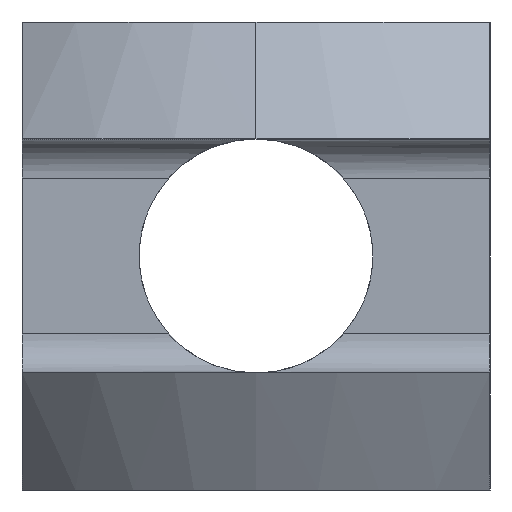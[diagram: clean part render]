
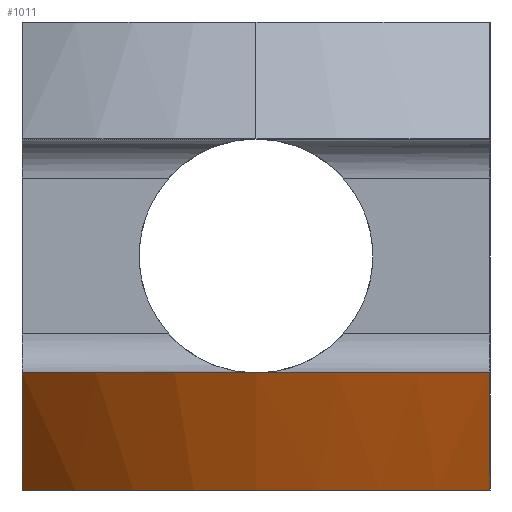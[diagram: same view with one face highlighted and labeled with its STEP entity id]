
A CAD part, left-side view. The second image highlights one B-rep face of the part: STEP entity #1011.
In plain terms, the highlighted conical face has half-angle 30 degrees and reference radius 12 mm.
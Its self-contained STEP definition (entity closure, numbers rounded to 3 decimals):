
#38 = VERTEX_POINT ( 'NONE', #128 ) ;
#39 = VERTEX_POINT ( 'NONE', #127 ) ;
#127 = CARTESIAN_POINT ( 'NONE',  ( -41.392, -6., -3. ) ) ;
#128 = CARTESIAN_POINT ( 'NONE',  ( -41.392, 6., -3. ) ) ;
#312 = DIRECTION ( 'NONE',  ( 0., 0., 1. ) ) ;
#313 = AXIS2_PLACEMENT_3D ( 'NONE', #316, #312, #1161 ) ;
#316 = CARTESIAN_POINT ( 'NONE',  ( -31., 0., -3. ) ) ;
#317 = CONICAL_SURFACE ( 'NONE', #313, 12., 0.524 ) ;
#321 = FACE_OUTER_BOUND ( 'NONE', #1012, .T. ) ;
#357 = CARTESIAN_POINT ( 'NONE',  ( -39.333, -6., -6. ) ) ;
#358 = CARTESIAN_POINT ( 'NONE',  ( -40.036, -6., -5.011 ) ) ;
#359 = CARTESIAN_POINT ( 'NONE',  ( -40.72, -6., -4.009 ) ) ;
#360 = CARTESIAN_POINT ( 'NONE',  ( -41.392, -6., -3. ) ) ;
#361 = B_SPLINE_CURVE_WITH_KNOTS ( 'NONE', 3,
 ( #360, #359, #358, #357 ),
 .UNSPECIFIED., .F., .F.,
 ( 4, 4 ),
 ( 0.009, 0.012 ),
 .UNSPECIFIED. ) ;
#362 = CARTESIAN_POINT ( 'NONE',  ( -39.333, -6., -6. ) ) ;
#408 = DIRECTION ( 'NONE',  ( 1., 0., 0. ) ) ;
#409 = DIRECTION ( 'NONE',  ( 0., 0., 1. ) ) ;
#420 = CARTESIAN_POINT ( 'NONE',  ( -31., 0., -6. ) ) ;
#421 = AXIS2_PLACEMENT_3D ( 'NONE', #420, #409, #408 ) ;
#424 = CIRCLE ( 'NONE', #421, 10.268 ) ;
#465 = CARTESIAN_POINT ( 'NONE',  ( -39.333, 6., -6. ) ) ;
#502 = CARTESIAN_POINT ( 'NONE',  ( -41.392, 6., -3. ) ) ;
#503 = CARTESIAN_POINT ( 'NONE',  ( -40.72, 6., -4.009 ) ) ;
#504 = CARTESIAN_POINT ( 'NONE',  ( -40.036, 6., -5.011 ) ) ;
#505 = CARTESIAN_POINT ( 'NONE',  ( -39.333, 6., -6. ) ) ;
#507 = B_SPLINE_CURVE_WITH_KNOTS ( 'NONE', 3,
 ( #505, #504, #503, #502 ),
 .UNSPECIFIED., .F., .F.,
 ( 4, 4 ),
 ( 0.021, 0.025 ),
 .UNSPECIFIED. ) ;
#574 = DIRECTION ( 'NONE',  ( 1., 0., 0. ) ) ;
#575 = DIRECTION ( 'NONE',  ( 0., 0., 1. ) ) ;
#576 = CARTESIAN_POINT ( 'NONE',  ( -31., 0., -3. ) ) ;
#577 = AXIS2_PLACEMENT_3D ( 'NONE', #576, #575, #574 ) ;
#578 = CIRCLE ( 'NONE', #577, 12. ) ;
#1009 = ORIENTED_EDGE ( 'NONE', *, *, #1100, .F. ) ;
#1010 = ORIENTED_EDGE ( 'NONE', *, *, #1126, .F. ) ;
#1011 = ADVANCED_FACE ( 'NONE', ( #321 ), #317, .T. ) ;
#1012 = EDGE_LOOP ( 'NONE', ( #1010, #1009, #1019, #1018 ) ) ;
#1018 = ORIENTED_EDGE ( 'NONE', *, *, #1033, .F. ) ;
#1019 = ORIENTED_EDGE ( 'NONE', *, *, #1057, .T. ) ;
#1033 = EDGE_CURVE ( 'NONE', #39, #1035, #361, .T. ) ;
#1035 = VERTEX_POINT ( 'NONE', #362 ) ;
#1057 = EDGE_CURVE ( 'NONE', #1061, #1035, #424, .T. ) ;
#1061 = VERTEX_POINT ( 'NONE', #465 ) ;
#1100 = EDGE_CURVE ( 'NONE', #1061, #38, #507, .T. ) ;
#1126 = EDGE_CURVE ( 'NONE', #38, #39, #578, .T. ) ;
#1161 = DIRECTION ( 'NONE',  ( 1., 0., 0. ) ) ;
